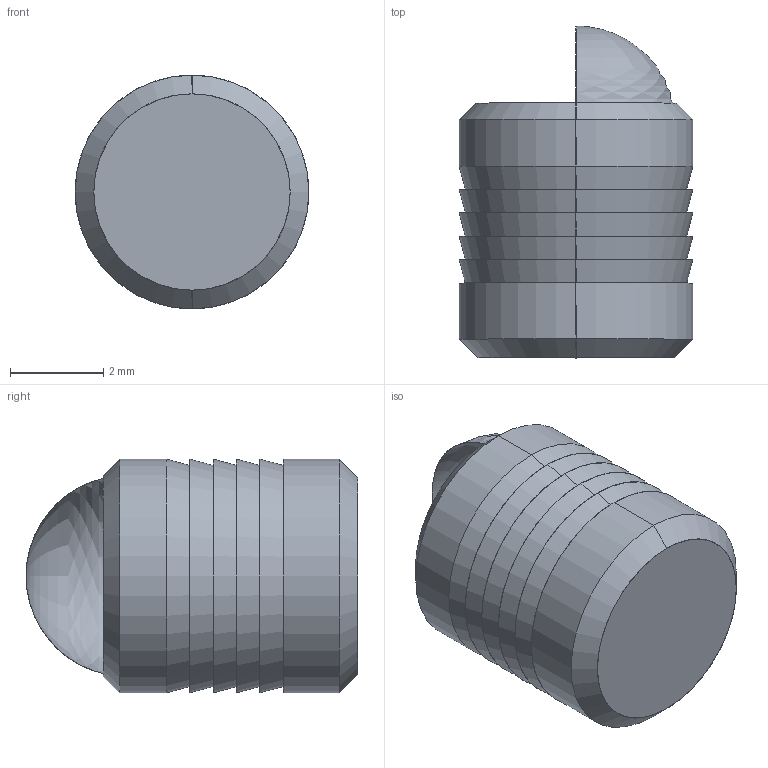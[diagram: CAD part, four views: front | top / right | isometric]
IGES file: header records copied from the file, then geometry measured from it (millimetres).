
Start section: SolidWorks IGES file using analytic representation for surfaces
Global section: file name: C:\Users\IanO\Desktop\P0190_v2\P0190_v2_20230321_IGES\P0190.050-AL-A2.igs; native system: SolidWorks 2019; preprocessor: SolidWorks 2019; author: IanO; date: 231219.162008; units: millimetre
Bounding box: 5 x 7.1 x 5 mm (x, y, z)
Surface area: 200.1 mm2 (no closed solid volume)
Topology: 0 solids, 0 shells, 28 faces, 440 edges, 437 vertices
Faces by surface type: revolution 22, bspline 6
